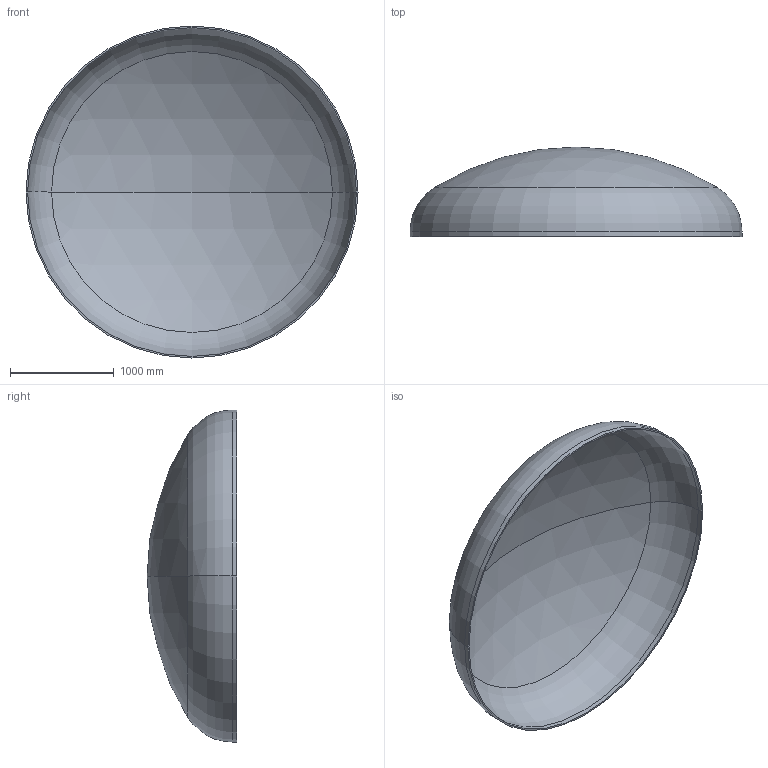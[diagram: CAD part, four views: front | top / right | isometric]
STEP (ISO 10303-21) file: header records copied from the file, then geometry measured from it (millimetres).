
FILE_DESCRIPTION (( 'STEP AP203' ), '1' );
FILE_NAME ('DIN 28013 Korbbogenform_-_Boden DIN 28013 - 3200 x 45 - I - s=15.step', '2016-07-01T18:20:59', ( '' ), ( '' ), 'SwSTEP 2.0', 'SolidWorks 2013', '' );
FILE_SCHEMA (( 'CONFIG_CONTROL_DESIGN' ));
Length unit declared in the file: millimetre
Products named in the file (1): DIN 28013 Korbbogenform_-_Boden DIN 28013 - 3200 x 45 - I - s=15
Bounding box: 3200 x 863.33 x 3200 mm (x, y, z)
Volume: 172625495.7 mm3; surface area: 23167284.4 mm2
Topology: 1 solids, 1 shells, 13 faces, 24 edges, 14 vertices
Faces by surface type: torus 4, cylinder 4, sphere 4, plane 1
Entity records: 407 total; most frequent: DIRECTION 72, CARTESIAN_POINT 52, ORIENTED_EDGE 48, AXIS2_PLACEMENT_3D 34, EDGE_CURVE 24, CIRCLE 20, VERTEX_POINT 14, EDGE_LOOP 14
